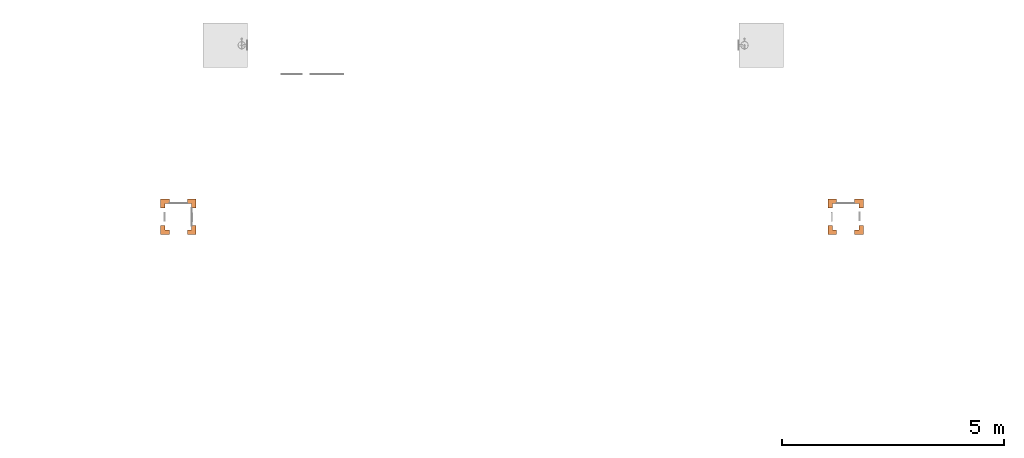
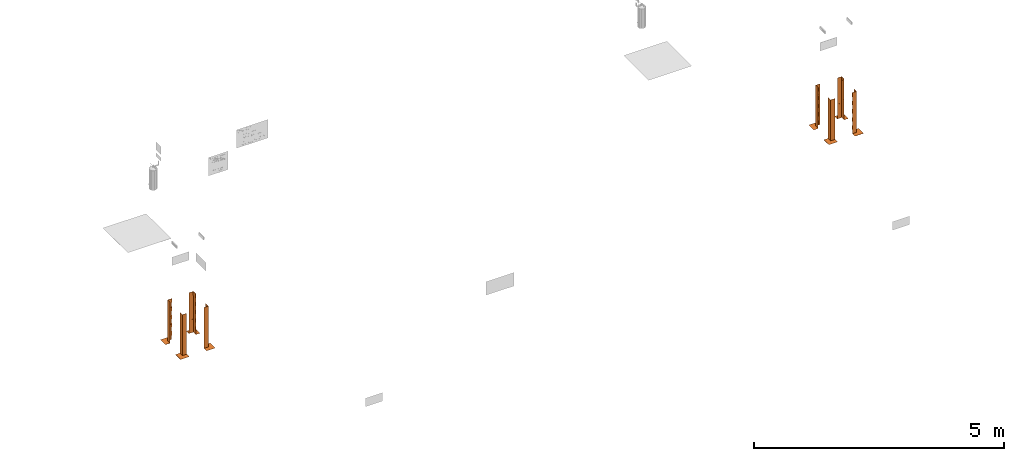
# One storey, part 4 of 119: 8 proxies.
"""IFC2X3 building model written with IfcOpenShell, lengths in metres."""

from ifc_helpers import new_model, entity, si_unit, converted_unit, derived_unit, direction, frame, origin, place, context, subcontext, project, spatial, faceted_brep, source, transform, mapped, material, material_list, type_object, type_shapes, element, save


model = new_model("IFC2X3")

# Units and contexts
model_context = context("Model", 3, precision=1e-05, world=origin(), true_north=direction((6.12303176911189e-17, 1.0)))
body_context = subcontext(model_context, "Body", "Model", "MODEL_VIEW")
ifc_project = project(units=[si_unit("LENGTHUNIT", "METRE"), si_unit("AREAUNIT", "SQUARE_METRE"), si_unit("VOLUMEUNIT", "CUBIC_METRE"), converted_unit("PLANEANGLEUNIT", "DEGREE", entity("IfcRatioMeasure", 0.0174532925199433), si_unit("PLANEANGLEUNIT", "RADIAN"), dimensions=[0, 0, 0, 0, 0, 0, 0]), si_unit("MASSUNIT", "GRAM", prefix="KILO"), derived_unit("MASSDENSITYUNIT", [(si_unit("MASSUNIT", "GRAM", prefix="KILO"), 1), (si_unit("LENGTHUNIT", "METRE"), -3)]), derived_unit("MOMENTOFINERTIAUNIT", [(si_unit("LENGTHUNIT", "METRE"), 4)]), si_unit("TIMEUNIT", "SECOND"), si_unit("FREQUENCYUNIT", "HERTZ"), si_unit("THERMODYNAMICTEMPERATUREUNIT", "DEGREE_CELSIUS"), derived_unit("THERMALTRANSMITTANCEUNIT", [(si_unit("MASSUNIT", "GRAM", prefix="KILO"), 1), (si_unit("THERMODYNAMICTEMPERATUREUNIT", "KELVIN"), -1), (si_unit("TIMEUNIT", "SECOND"), -3)]), derived_unit("VOLUMETRICFLOWRATEUNIT", [(si_unit("LENGTHUNIT", "METRE"), 3), (si_unit("TIMEUNIT", "SECOND"), -1)]), si_unit("ELECTRICCURRENTUNIT", "AMPERE"), si_unit("ELECTRICVOLTAGEUNIT", "VOLT"), si_unit("POWERUNIT", "WATT"), si_unit("FORCEUNIT", "NEWTON", prefix="KILO"), si_unit("ILLUMINANCEUNIT", "LUX"), si_unit("LUMINOUSFLUXUNIT", "LUMEN"), si_unit("LUMINOUSINTENSITYUNIT", "CANDELA"), derived_unit("USERDEFINED", [(si_unit("MASSUNIT", "GRAM", prefix="KILO"), -1), (si_unit("LENGTHUNIT", "METRE"), -2), (si_unit("TIMEUNIT", "SECOND"), 3), (si_unit("LUMINOUSFLUXUNIT", "LUMEN"), 1)]), derived_unit("LINEARVELOCITYUNIT", [(si_unit("LENGTHUNIT", "METRE"), 1), (si_unit("TIMEUNIT", "SECOND"), -1)]), si_unit("PRESSUREUNIT", "PASCAL"), derived_unit("USERDEFINED", [(si_unit("LENGTHUNIT", "METRE"), -2), (si_unit("MASSUNIT", "GRAM", prefix="KILO"), 1), (si_unit("TIMEUNIT", "SECOND"), -2)]), derived_unit("LINEARFORCEUNIT", [(si_unit("MASSUNIT", "GRAM", prefix="KILO"), 1), (si_unit("LENGTHUNIT", "METRE"), 1), (si_unit("TIMEUNIT", "SECOND"), -2), (si_unit("LENGTHUNIT", "METRE"), -1)]), derived_unit("PLANARFORCEUNIT", [(si_unit("MASSUNIT", "GRAM", prefix="KILO"), 1), (si_unit("LENGTHUNIT", "METRE"), 1), (si_unit("TIMEUNIT", "SECOND"), -2), (si_unit("LENGTHUNIT", "METRE"), -2)])], contexts=[model_context])

# Site, building, storey
site_placement = place(None, origin())
site = spatial("IfcSite", under=ifc_project, at=site_placement, Name="Default", CompositionType="ELEMENT")
building_placement = place(site_placement, origin())
building = spatial("IfcBuilding", under=site, at=building_placement, CompositionType="ELEMENT")
storey_placement = place(building_placement, origin())
storey = spatial("IfcBuildingStorey", under=building, at=storey_placement, Name="PAV. 01 - TÉRREO", CompositionType="ELEMENT", Elevation=0.0)

# Proxies
ifc_material_1 = material(Name="Plastico Amarelo")
ifc_material_2 = material(Name="Plastico Preto")
ifc_material_3 = material(Name="O_01_amarelo")
ifc_material_4 = material(Name="O_01_Preto")
ifc_material_list_1 = material_list([ifc_material_1, ifc_material_2, ifc_material_3, ifc_material_4])
ifc_material_list_2 = material_list([ifc_material_3, ifc_material_4, ifc_material_1])
building_element_proxy_type = type_object("IfcBuildingElementProxyType", Name="Indicação de Obstáculos:Indicador - O01 - Amarelo (ambiente interno)", PredefinedType="NOTDEFINED", material=ifc_material_list_2)
shared_shape = source(origin(), body_context, "Body", "Brep", [
    faceted_brep([(0.1, -0.0499999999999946, 0.000999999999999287), (0.0499999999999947, -0.1, 0.000999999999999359), (0.1, -0.1, 0.000999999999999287), (0.1, -0.0499999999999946, 0.0), (0.1, -0.1, 0.0), (0.0499999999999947, -0.1, 0.0)], [[[0, 1, 2]], [[3, 4, 5]], [[0, 2, 4, 3]], [[1, 0, 3, 5]], [[2, 1, 5, 4]]]),
    faceted_brep([(0.100000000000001, 0.0, 0.000999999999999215), (0.0, -0.1, 0.000999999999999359), (0.049999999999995, -0.1, 0.000999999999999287), (0.100000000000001, -0.0499999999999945, 0.000999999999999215), (0.100000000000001, 0.0, 0.0), (0.100000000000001, -0.0499999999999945, 0.0), (0.049999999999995, -0.1, 0.0), (0.0, -0.1, 0.0)], [[[0, 1, 2, 3]], [[4, 5, 6, 7]], [[0, 3, 5, 4]], [[1, 0, 4, 7]], [[3, 2, 6, 5]], [[2, 1, 7, 6]]]),
    faceted_brep([(0.049999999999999, 0.0, 0.000999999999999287), (-0.0500000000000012, -0.0999999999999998, 0.000999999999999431), (0.0, -0.1, 0.000999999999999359), (0.0999999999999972, 0.0, 0.000999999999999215), (0.049999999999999, 0.0, 0.0), (0.0999999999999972, 0.0, 0.0), (0.0, -0.1, 0.0), (-0.0500000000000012, -0.0999999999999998, 0.0)], [[[0, 1, 2, 3]], [[4, 5, 6, 7]], [[1, 0, 4, 7]], [[3, 2, 6, 5]], [[2, 1, 7, 6]], [[0, 3, 5, 4]]]),
    faceted_brep([(-0.0999999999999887, -0.0999999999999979, 0.000999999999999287), (-0.0499999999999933, -0.0999999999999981, 0.000999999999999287), (0.0499999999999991, 0.0, 0.000999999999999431), (0.0, 0.0, 0.000999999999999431), (-0.0999999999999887, -0.0999999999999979, 0.0), (0.0, 0.0, 0.0), (0.049999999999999, 0.0, 0.0), (-0.0499999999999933, -0.0999999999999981, 0.0)], [[[0, 1, 2, 3]], [[4, 5, 6, 7]], [[0, 3, 5, 4]], [[2, 1, 7, 6]], [[3, 2, 6, 5]], [[1, 0, 4, 7]]]),
    faceted_brep([(0.0, 0.0500000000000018, 0.000999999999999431), (-0.0999999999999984, -0.0500000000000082, 0.000999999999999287), (-0.099999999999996, -0.100000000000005, 0.000999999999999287), (0.0, 0.0, 0.000999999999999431), (0.0, 0.0500000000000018, 0.0), (0.0, 0.0, 0.0), (-0.099999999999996, -0.100000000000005, 0.0), (-0.0999999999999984, -0.0500000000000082, 0.0)], [[[0, 1, 2, 3]], [[4, 5, 6, 7]], [[0, 3, 5, 4]], [[1, 0, 4, 7]], [[2, 1, 7, 6]], [[3, 2, 6, 5]]]),
    faceted_brep([(-0.0999999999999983, 0.0499999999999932, 0.000999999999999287), (-0.0499999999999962, 0.1, 0.000999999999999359), (-0.100000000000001, 0.1, 0.000999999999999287), (-0.0999999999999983, 0.0499999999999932, 0.0), (-0.100000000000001, 0.1, 0.0), (-0.0499999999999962, 0.1, 0.0)], [[[0, 1, 2]], [[3, 4, 5]], [[0, 2, 4, 3]], [[1, 0, 3, 5]], [[2, 1, 5, 4]]]),
    faceted_brep([(-0.0999999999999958, 0.0, 0.000999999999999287), (0.0, 0.1, 0.000999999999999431), (-0.0499999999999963, 0.1, 0.000999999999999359), (-0.0999999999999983, 0.0499999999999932, 0.000999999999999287), (-0.0999999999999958, 0.0, 0.0), (-0.0999999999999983, 0.0499999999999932, 0.0), (-0.0499999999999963, 0.1, 0.0), (0.0, 0.1, 0.0)], [[[0, 1, 2, 3]], [[4, 5, 6, 7]], [[0, 3, 5, 4]], [[1, 0, 4, 7]], [[3, 2, 6, 5]], [[2, 1, 7, 6]]]),
    faceted_brep([(0.0, 0.050000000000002, 0.000999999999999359), (0.0, 0.1, 0.000999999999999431), (-0.0999999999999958, 0.0, 0.000999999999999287), (-0.0999999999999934, -0.0500000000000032, 0.000999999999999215), (0.0, 0.0500000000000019, 0.0), (-0.0999999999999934, -0.0500000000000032, 0.0), (-0.0999999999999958, 0.0, 0.0), (0.0, 0.1, 0.0)], [[[0, 1, 2, 3]], [[4, 5, 6, 7]], [[1, 0, 4, 7]], [[2, 1, 7, 6]], [[0, 3, 5, 4]], [[3, 2, 6, 5]]]),
    faceted_brep([(0.00200000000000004, 0.1, 1.0), (0.002, 0.00199999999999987, 0.902000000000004), (0.002, 0.00199999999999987, 0.802000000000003), (0.00200000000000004, 0.1, 0.900000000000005), (0.0, 0.1, 0.900000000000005), (0.0, 0.0, 0.800000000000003), (0.0, 0.0, 0.900000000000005), (0.0, 0.1, 1.0)], [[[0, 1, 2, 3]], [[4, 5, 6, 7]], [[4, 3, 2, 5]], [[1, 6, 5, 2]], [[6, 1, 0, 7]], [[3, 4, 7, 0]]]),
    faceted_brep([(0.00200000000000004, 0.1, 0.800000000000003), (0.002, 0.00199999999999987, 0.702000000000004), (0.002, 0.00199999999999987, 0.602000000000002), (0.00200000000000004, 0.1, 0.700000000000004), (0.0, 0.1, 0.700000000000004), (0.0, 0.0, 0.600000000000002), (0.0, 0.0, 0.700000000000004), (0.0, 0.1, 0.800000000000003)], [[[0, 1, 2, 3]], [[4, 5, 6, 7]], [[4, 3, 2, 5]], [[1, 6, 5, 2]], [[6, 1, 0, 7]], [[3, 4, 7, 0]]]),
    faceted_brep([(0.00200000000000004, 0.1, 0.600000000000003), (0.002, 0.00199999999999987, 0.502000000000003), (0.002, 0.00199999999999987, 0.402000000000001), (0.00200000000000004, 0.1, 0.500000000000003), (0.0, 0.1, 0.500000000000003), (0.0, 0.0, 0.400000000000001), (0.0, 0.0, 0.500000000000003), (0.0, 0.1, 0.600000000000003)], [[[0, 1, 2, 3]], [[4, 5, 6, 7]], [[4, 3, 2, 5]], [[1, 6, 5, 2]], [[6, 1, 0, 7]], [[3, 4, 7, 0]]]),
    faceted_brep([(0.00200000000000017, 0.0999999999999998, 0.400000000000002), (0.00200000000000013, 0.0019999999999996, 0.302000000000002), (0.00200000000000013, 0.0019999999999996, 0.202), (0.00200000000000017, 0.0999999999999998, 0.300000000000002), (0.0, 0.0999999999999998, 0.300000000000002), (0.0, 0.0, 0.2), (0.0, 0.0, 0.300000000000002), (0.0, 0.0999999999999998, 0.400000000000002)], [[[0, 1, 2, 3]], [[4, 5, 6, 7]], [[4, 3, 2, 5]], [[1, 6, 5, 2]], [[6, 1, 0, 7]], [[3, 4, 7, 0]]]),
    faceted_brep([(0.000500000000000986, 0.1, 0.900000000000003), (0.000500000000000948, 0.000499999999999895, 0.800500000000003), (0.000500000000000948, 0.00049999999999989, 0.700500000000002), (0.000500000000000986, 0.1, 0.800000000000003), (0.0, 0.1, 0.800000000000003), (0.0, 0.0, 0.700000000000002), (0.0, 0.0, 0.800000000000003), (0.0, 0.1, 0.900000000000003)], [[[0, 1, 2, 3]], [[4, 5, 6, 7]], [[4, 3, 2, 5]], [[1, 6, 5, 2]], [[6, 1, 0, 7]], [[3, 4, 7, 0]]]),
    faceted_brep([(0.000500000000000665, 0.1, 0.700000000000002), (0.000500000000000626, 0.000499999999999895, 0.600500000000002), (0.000500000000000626, 0.00049999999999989, 0.500500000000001), (0.000500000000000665, 0.1, 0.600000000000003), (0.0, 0.1, 0.600000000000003), (0.0, 0.0, 0.500000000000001), (0.0, 0.0, 0.600000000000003), (0.0, 0.1, 0.700000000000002)], [[[0, 1, 2, 3]], [[4, 5, 6, 7]], [[4, 3, 2, 5]], [[1, 6, 5, 2]], [[6, 1, 0, 7]], [[3, 4, 7, 0]]]),
    faceted_brep([(0.000500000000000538, 0.0999999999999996, 0.500000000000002), (0.000500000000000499, 0.000499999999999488, 0.400500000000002), (0.000500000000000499, 0.000499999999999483, 0.3005), (0.000500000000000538, 0.0999999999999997, 0.400000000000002), (0.0, 0.0999999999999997, 0.400000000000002), (0.0, 0.0, 0.3), (0.0, 0.0, 0.400000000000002), (0.0, 0.0999999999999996, 0.500000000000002)], [[[0, 1, 2, 3]], [[4, 5, 6, 7]], [[4, 3, 2, 5]], [[1, 6, 5, 2]], [[6, 1, 0, 7]], [[3, 4, 7, 0]]]),
    faceted_brep([(0.00499999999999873, 0.00499999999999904, 1.0), (0.00499999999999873, 0.00499999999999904, 0.904999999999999), (0.00499999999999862, 0.0999999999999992, 1.0), (0.0, 0.0, 0.899999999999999), (0.0, 0.0, 1.0), (0.0, 0.0999999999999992, 1.0)], [[[0, 1, 2]], [[3, 4, 5]], [[4, 0, 2, 5]], [[5, 2, 1, 3]], [[0, 4, 3, 1]]]),
    faceted_brep([(0.00499999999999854, 0.00499999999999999, 1.0), (0.0999999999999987, 0.00499999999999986, 1.0), (0.00499999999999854, 0.00499999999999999, 0.904999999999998), (0.0, 0.0, 0.899999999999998), (0.0999999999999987, 0.0, 1.0), (0.0, 0.0, 1.0)], [[[0, 1, 2]], [[3, 4, 5]], [[5, 4, 1, 0]], [[4, 3, 2, 1]], [[0, 2, 3, 5]]]),
    faceted_brep([(0.0999999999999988, 0.000499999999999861, 0.900000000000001), (0.0999999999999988, 0.000499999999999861, 0.800000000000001), (0.000499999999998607, 0.000499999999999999, 0.7005), (0.000499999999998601, 0.000499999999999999, 0.800500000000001), (0.0999999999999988, 0.0, 0.800000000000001), (0.0999999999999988, 0.0, 0.900000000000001), (0.0, 0.0, 0.800000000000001), (0.0, 0.0, 0.7)], [[[0, 1, 2, 3]], [[4, 5, 6, 7]], [[4, 7, 2, 1]], [[3, 2, 7, 6]], [[6, 5, 0, 3]], [[1, 0, 5, 4]]]),
    faceted_brep([(0.0999999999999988, 0.000499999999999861, 0.700000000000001), (0.0999999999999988, 0.000499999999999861, 0.600000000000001), (0.000499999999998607, 0.000499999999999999, 0.5005), (0.000499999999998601, 0.000499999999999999, 0.600500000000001), (0.0999999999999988, 0.0, 0.600000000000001), (0.0999999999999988, 0.0, 0.700000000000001), (0.0, 0.0, 0.600000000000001), (0.0, 0.0, 0.5)], [[[0, 1, 2, 3]], [[4, 5, 6, 7]], [[4, 7, 2, 1]], [[3, 2, 7, 6]], [[6, 5, 0, 3]], [[1, 0, 5, 4]]]),
    faceted_brep([(0.0999999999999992, 0.000499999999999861, 0.500000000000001), (0.0999999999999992, 0.000499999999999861, 0.400000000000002), (0.000499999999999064, 0.000499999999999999, 0.3005), (0.000499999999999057, 0.000499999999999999, 0.400500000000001), (0.0999999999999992, 0.0, 0.400000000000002), (0.0999999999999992, 0.0, 0.500000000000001), (0.0, 0.0, 0.400000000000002), (0.0, 0.0, 0.3)], [[[0, 1, 2, 3]], [[4, 5, 6, 7]], [[4, 7, 2, 1]], [[3, 2, 7, 6]], [[6, 5, 0, 3]], [[1, 0, 5, 4]]]),
    faceted_brep([(0.0999999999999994, 0.00199999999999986, 1.0), (0.0999999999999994, 0.00199999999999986, 0.900000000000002), (0.00199999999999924, 0.002, 0.802), (0.00199999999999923, 0.002, 0.902000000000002), (0.0999999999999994, 0.0, 0.900000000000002), (0.0999999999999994, 0.0, 1.0), (0.0, 0.0, 0.900000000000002), (0.0, 0.0, 0.8)], [[[0, 1, 2, 3]], [[4, 5, 6, 7]], [[4, 7, 2, 1]], [[3, 2, 7, 6]], [[6, 5, 0, 3]], [[1, 0, 5, 4]]]),
    faceted_brep([(0.0999999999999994, 0.00199999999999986, 0.800000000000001), (0.0999999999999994, 0.00199999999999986, 0.700000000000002), (0.00199999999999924, 0.002, 0.602), (0.00199999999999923, 0.002, 0.702000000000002), (0.0999999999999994, 0.0, 0.700000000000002), (0.0999999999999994, 0.0, 0.800000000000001), (0.0, 0.0, 0.700000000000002), (0.0, 0.0, 0.6)], [[[0, 1, 2, 3]], [[4, 5, 6, 7]], [[4, 7, 2, 1]], [[3, 2, 7, 6]], [[6, 5, 0, 3]], [[1, 0, 5, 4]]]),
    faceted_brep([(0.0999999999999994, 0.00199999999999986, 0.600000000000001), (0.0999999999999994, 0.00199999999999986, 0.500000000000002), (0.00199999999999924, 0.002, 0.402), (0.00199999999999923, 0.002, 0.502000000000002), (0.0999999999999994, 0.0, 0.500000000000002), (0.0999999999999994, 0.0, 0.600000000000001), (0.0, 0.0, 0.500000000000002), (0.0, 0.0, 0.4)], [[[0, 1, 2, 3]], [[4, 5, 6, 7]], [[4, 7, 2, 1]], [[3, 2, 7, 6]], [[6, 5, 0, 3]], [[1, 0, 5, 4]]]),
    faceted_brep([(0.0999999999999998, 0.00199999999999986, 0.400000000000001), (0.0999999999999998, 0.00199999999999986, 0.300000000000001), (0.00199999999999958, 0.002, 0.202), (0.00199999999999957, 0.002, 0.302000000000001), (0.0999999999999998, 0.0, 0.300000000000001), (0.0999999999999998, 0.0, 0.400000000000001), (0.0, 0.0, 0.300000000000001), (0.0, 0.0, 0.2)], [[[0, 1, 2, 3]], [[4, 5, 6, 7]], [[4, 7, 2, 1]], [[3, 2, 7, 6]], [[6, 5, 0, 3]], [[1, 0, 5, 4]]]),
    faceted_brep([(0.000500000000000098, 0.1, 0.300000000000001), (0.000500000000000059, 0.000499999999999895, 0.200500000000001), (0.000500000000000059, 0.00049999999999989, 0.1005), (0.000500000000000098, 0.1, 0.200000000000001), (0.0, 0.1, 0.200000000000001), (0.0, 0.0, 0.0999999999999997), (0.0, 0.0, 0.200000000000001), (0.0, 0.1, 0.300000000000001)], [[[0, 1, 2, 3]], [[4, 5, 6, 7]], [[4, 3, 2, 5]], [[1, 6, 5, 2]], [[6, 1, 0, 7]], [[3, 4, 7, 0]]]),
    faceted_brep([(0.00200000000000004, 0.1, 0.200000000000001), (0.002, 0.00199999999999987, 0.102000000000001), (0.002, 0.00199999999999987, 0.00199999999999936), (0.00200000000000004, 0.1, 0.100000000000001), (0.0, 0.1, 0.100000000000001), (0.0, 0.0, 0.0), (0.0, 0.0, 0.100000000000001), (0.0, 0.1, 0.200000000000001)], [[[0, 1, 2, 3]], [[4, 5, 6, 7]], [[4, 3, 2, 5]], [[1, 6, 5, 2]], [[6, 1, 0, 7]], [[3, 4, 7, 0]]]),
    faceted_brep([(0.000500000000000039, 0.1, 0.100000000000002), (0.0005, 0.000499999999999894, 0.000499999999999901), (0.0005, 0.000499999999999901, 0.0), (0.000500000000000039, 0.1, 0.0), (0.0, 0.0, 0.0), (0.0, 0.1, 0.100000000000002), (0.0, 0.1, 0.0)], [[[0, 1, 2, 3]], [[4, 5, 6]], [[3, 6, 5, 0]], [[6, 3, 2, 4]], [[4, 1, 0, 5]], [[1, 4, 2]]]),
    faceted_brep([(0.0999999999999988, 0.000499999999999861, 0.300000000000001), (0.0999999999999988, 0.000499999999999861, 0.200000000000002), (0.000499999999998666, 0.000499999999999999, 0.1005), (0.00049999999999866, 0.000499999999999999, 0.200500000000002), (0.0999999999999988, 0.0, 0.200000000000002), (0.0999999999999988, 0.0, 0.300000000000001), (0.0, 0.0, 0.200000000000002), (0.0, 0.0, 0.1)], [[[0, 1, 2, 3]], [[4, 5, 6, 7]], [[4, 7, 2, 1]], [[3, 2, 7, 6]], [[6, 5, 0, 3]], [[1, 0, 5, 4]]]),
    faceted_brep([(0.0999999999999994, 0.00199999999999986, 0.200000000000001), (0.0999999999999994, 0.00199999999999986, 0.100000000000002), (0.00199999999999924, 0.002, 0.0019999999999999), (0.00199999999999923, 0.002, 0.102000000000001), (0.0999999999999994, 0.0, 0.100000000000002), (0.0999999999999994, 0.0, 0.200000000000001), (0.0, 0.0, 0.100000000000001), (0.0, 0.0, 0.0)], [[[0, 1, 2, 3]], [[4, 5, 6, 7]], [[4, 7, 2, 1]], [[3, 2, 7, 6]], [[6, 5, 0, 3]], [[1, 0, 5, 4]]]),
    faceted_brep([(0.1, 0.000499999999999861, 0.100000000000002), (0.1, 0.000499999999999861, 0.0), (0.000499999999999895, 0.000499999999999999, 0.0), (0.000499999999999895, 0.000499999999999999, 0.000499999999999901), (0.0, 0.0, 0.0), (0.1, 0.0, 0.0), (0.1, 0.0, 0.100000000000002)], [[[0, 1, 2, 3]], [[4, 5, 6]], [[1, 0, 6, 5]], [[5, 4, 2, 1]], [[4, 6, 0, 3]], [[3, 2, 4]]]),
])
type_shapes(building_element_proxy_type, [shared_shape])
proxy_1_placement = place(storey_placement, frame((6.47387477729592, 0.128684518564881, 0.0), z_axis=(0.0, 0.0, 1.0), x_axis=(0.0, 1.0, 0.0)))
element("IfcBuildingElementProxy", 1, at=proxy_1_placement, inside=storey, type_object=building_element_proxy_type, material=ifc_material_list_1, Name="Indicação de Obstáculos:Indicador - O01 - Amarelo (ambiente interno)", ObjectType="Indicação de Obstáculos:Indicador - O01 - Amarelo (ambiente interno)", context=body_context, shape_type="MappedRepresentation", body=[
    mapped(shared_shape, transform((0.0, 0.0, 0.0), scale=1.0)),
])
ifc_material_list_3 = material_list([ifc_material_1, ifc_material_2, ifc_material_3, ifc_material_4])
proxy_2_placement = place(storey_placement, frame((5.87387552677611, 0.128684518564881, 0.0)))
element("IfcBuildingElementProxy", 2, at=proxy_2_placement, inside=storey, type_object=building_element_proxy_type, material=ifc_material_list_3, Name="Indicação de Obstáculos:Indicador - O01 - Amarelo (ambiente interno)", ObjectType="Indicação de Obstáculos:Indicador - O01 - Amarelo (ambiente interno)", context=body_context, shape_type="MappedRepresentation", body=[
    mapped(shared_shape, transform((0.0, 0.0, 0.0), scale=1.0)),
])
ifc_material_list_4 = material_list([ifc_material_1, ifc_material_2, ifc_material_3, ifc_material_4])
proxy_3_placement = place(storey_placement, frame((6.47387477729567, 0.728683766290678, 0.0), z_axis=(0.0, 0.0, 1.0), x_axis=(-1.0, 0.0, 0.0)))
element("IfcBuildingElementProxy", 3, at=proxy_3_placement, inside=storey, type_object=building_element_proxy_type, material=ifc_material_list_4, Name="Indicação de Obstáculos:Indicador - O01 - Amarelo (ambiente interno)", ObjectType="Indicação de Obstáculos:Indicador - O01 - Amarelo (ambiente interno)", context=body_context, shape_type="MappedRepresentation", body=[
    mapped(shared_shape, transform((0.0, 0.0, 0.0), scale=1.0)),
])
ifc_material_list_5 = material_list([ifc_material_1, ifc_material_2, ifc_material_3, ifc_material_4])
proxy_4_placement = place(storey_placement, frame((5.87387552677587, 0.728683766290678, 0.0), z_axis=(0.0, 0.0, 1.0), x_axis=(0.0, -1.0, 0.0)))
element("IfcBuildingElementProxy", 4, at=proxy_4_placement, inside=storey, type_object=building_element_proxy_type, material=ifc_material_list_5, Name="Indicação de Obstáculos:Indicador - O01 - Amarelo (ambiente interno)", ObjectType="Indicação de Obstáculos:Indicador - O01 - Amarelo (ambiente interno)", context=body_context, shape_type="MappedRepresentation", body=[
    mapped(shared_shape, transform((0.0, 0.0, 0.0), scale=1.0)),
])
ifc_material_list_6 = material_list([ifc_material_1, ifc_material_2, ifc_material_3, ifc_material_4])
proxy_5_placement = place(storey_placement, frame((21.4738560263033, 0.128684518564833, 0.0), z_axis=(0.0, 0.0, 1.0), x_axis=(0.0, 1.0, 0.0)))
element("IfcBuildingElementProxy", 5, at=proxy_5_placement, inside=storey, type_object=building_element_proxy_type, material=ifc_material_list_6, Name="Indicação de Obstáculos:Indicador - O01 - Amarelo (ambiente interno)", ObjectType="Indicação de Obstáculos:Indicador - O01 - Amarelo (ambiente interno)", context=body_context, shape_type="MappedRepresentation", body=[
    mapped(shared_shape, transform((0.0, 0.0, 0.0), scale=1.0)),
])
ifc_material_list_7 = material_list([ifc_material_1, ifc_material_2, ifc_material_3, ifc_material_4])
proxy_6_placement = place(storey_placement, frame((20.8738567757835, 0.128684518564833, 0.0)))
element("IfcBuildingElementProxy", 6, at=proxy_6_placement, inside=storey, type_object=building_element_proxy_type, material=ifc_material_list_7, Name="Indicação de Obstáculos:Indicador - O01 - Amarelo (ambiente interno)", ObjectType="Indicação de Obstáculos:Indicador - O01 - Amarelo (ambiente interno)", context=body_context, shape_type="MappedRepresentation", body=[
    mapped(shared_shape, transform((0.0, 0.0, 0.0), scale=1.0)),
])
ifc_material_list_8 = material_list([ifc_material_1, ifc_material_2, ifc_material_3, ifc_material_4])
proxy_7_placement = place(storey_placement, frame((21.4738560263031, 0.728683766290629, 0.0), z_axis=(0.0, 0.0, 1.0), x_axis=(-1.0, 0.0, 0.0)))
element("IfcBuildingElementProxy", 7, at=proxy_7_placement, inside=storey, type_object=building_element_proxy_type, material=ifc_material_list_8, Name="Indicação de Obstáculos:Indicador - O01 - Amarelo (ambiente interno)", ObjectType="Indicação de Obstáculos:Indicador - O01 - Amarelo (ambiente interno)", context=body_context, shape_type="MappedRepresentation", body=[
    mapped(shared_shape, transform((0.0, 0.0, 0.0), scale=1.0)),
])
ifc_material_list_9 = material_list([ifc_material_1, ifc_material_2, ifc_material_3, ifc_material_4])
proxy_8_placement = place(storey_placement, frame((20.8738567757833, 0.728683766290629, 0.0), z_axis=(0.0, 0.0, 1.0), x_axis=(0.0, -1.0, 0.0)))
element("IfcBuildingElementProxy", 8, at=proxy_8_placement, inside=storey, type_object=building_element_proxy_type, material=ifc_material_list_9, Name="Indicação de Obstáculos:Indicador - O01 - Amarelo (ambiente interno)", ObjectType="Indicação de Obstáculos:Indicador - O01 - Amarelo (ambiente interno)", context=body_context, shape_type="MappedRepresentation", body=[
    mapped(shared_shape, transform((0.0, 0.0, 0.0), scale=1.0)),
])

save(model, "model.ifc")
